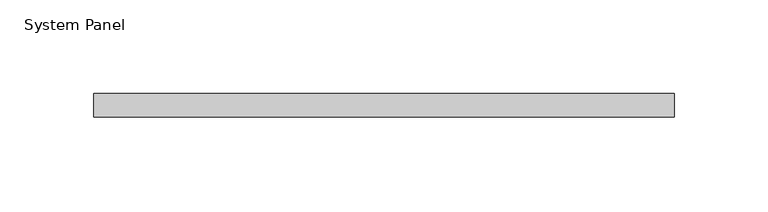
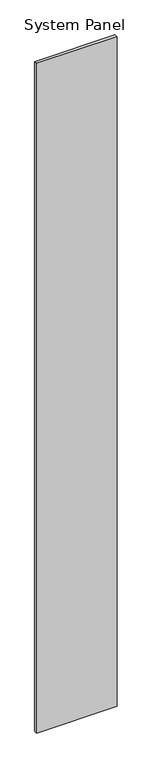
"""IFC4 building model written with IfcOpenShell, lengths in millimetres: plate geometry, System Panel : CR-BARANDA."""

from ifc_helpers import new_model, si_unit, origin, origin_with_axes, place, context, project, spatial, polyline, outline, extrude, source, transform, mapped, element, save


def system_panel_a79ef9cc(model_context):
    return source(origin(), model_context, "Body", "SweptSolid", [
        extrude(outline(polyline([(154.5039779, -6.25), (-154.5039779, -6.25), (-154.5039779, 6.25), (154.5039779, 6.25), (154.5039779, -6.25)])), origin_with_axes(), (0.0, 0.0, 1.0), 2720.0),
    ])


if __name__ == "__main__":
    model = new_model("IFC4")
    model_context = context("Model", 3, world=origin())
    ifc_project = project(units=[si_unit("LENGTHUNIT", "METRE", prefix="MILLI")], contexts=[model_context])
    site = spatial("IfcSite", under=ifc_project)
    building = spatial("IfcBuilding", under=site)
    placement = place(None, origin())
    system_panel_shape = system_panel_a79ef9cc(model_context)
    element("IfcPlate", 1, ObjectType="System Panel : CR-BARANDA", at=placement, inside=building, context=model_context, shape_type="MappedRepresentation", body=[
        mapped(system_panel_shape, transform((0.0, 0.0, 0.0), x_axis=(1.0, 0.0, 0.0), y_axis=(0.0, 1.0, 0.0), z_axis=(0.0, 0.0, 1.0))),
    ])
    save(model, "model.ifc")
